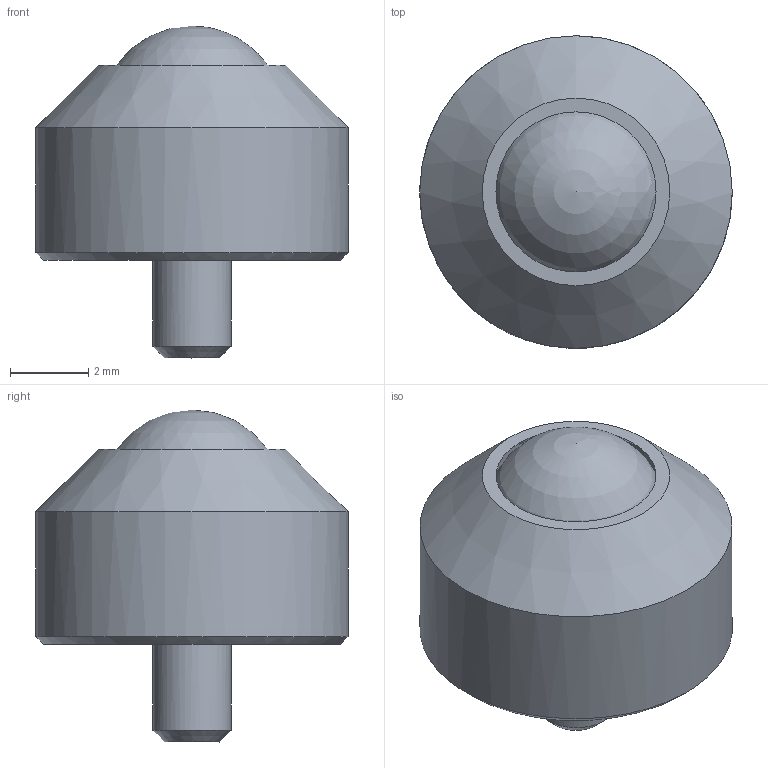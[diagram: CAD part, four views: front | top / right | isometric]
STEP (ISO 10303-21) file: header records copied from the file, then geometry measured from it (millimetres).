
FILE_DESCRIPTION(/* description */ (''),/* implementation_level */ '2;1');
FILE_NAME(/* name */ 'Z:\34-Tei\web 3Dデータ\16-IS-SNM型\IS-05SNM.stp',/* time_stamp */ '2015-01-09T15:14:06+09:00',/* author */ ('yamaki'),/* organization */ (''),/* preprocessor_version */ 'ST-DEVELOPER v15.6',/* originating_system */ 'Autodesk Inventor 2015',/* authorisation */ '');
FILE_SCHEMA (('AUTOMOTIVE_DESIGN { 1 0 10303 214 3 1 1 }'));
Length unit declared in the file: millimetre
Products named in the file (1): IS-05SNM
Bounding box: 8 x 8 x 8.5 mm (x, y, z)
Volume: 233 mm3; surface area: 330 mm2
Topology: 2 solids, 2 shells, 13 faces, 26 edges, 17 vertices
Faces by surface type: cone 4, plane 4, cylinder 3, sphere 2
Full cylindrical faces by diameter (mm): 2 x1, 4.9 x1, 8 x1
Entity records: 345 total; most frequent: CARTESIAN_POINT 102, DIRECTION 46, AXIS2_PLACEMENT_3D 23, EDGE_LOOP 22, ORIENTED_EDGE 22, STYLED_ITEM 13, ADVANCED_FACE 13, FACE_OUTER_BOUND 12
